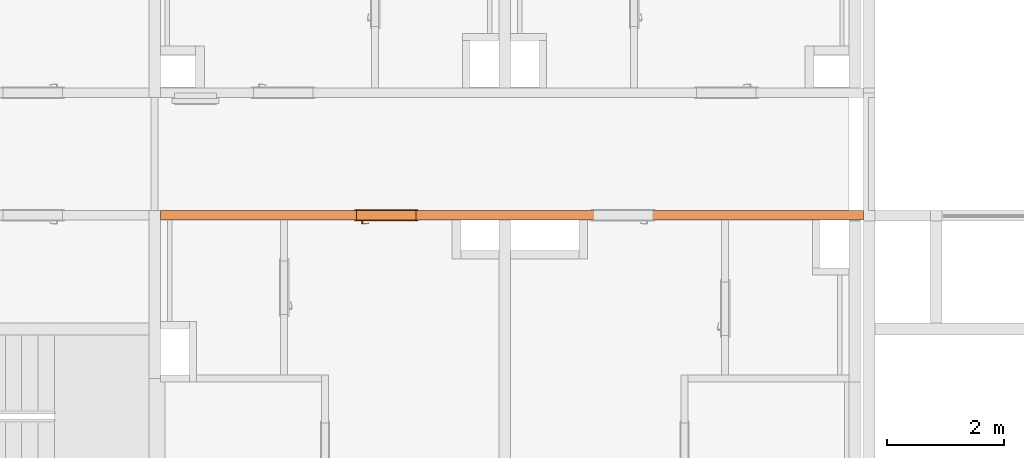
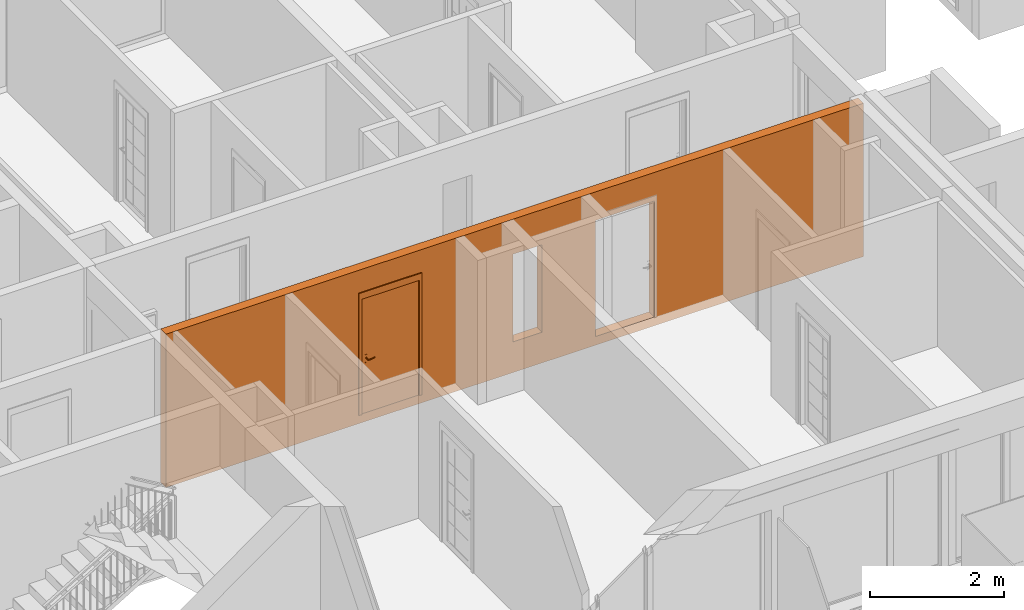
# One storey, part 22 of 66: 2 proxies, 3 openings.
"""IFC2X3 building model written with IfcOpenShell, lengths in millimetres."""

from ifc_helpers import new_model, entity, si_unit, converted_unit, derived_unit, money_unit, direction, frame, origin_with_axes, origin_2d_with_axis, place, context, subcontext, project, spatial, rectangle, extrude, open_shell, faceted_brep, surface_model, source, transform, mapped, material, type_object, element, fill, save


model = new_model("IFC2X3")

# Units and contexts
model_context = context("Model", 3, precision=0.01, world=origin_with_axes(), true_north=direction((0.34421633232, 0.938890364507)))
body_context = subcontext(model_context, "Body", "Model", "MODEL_VIEW")
ifc_project = project(units=[si_unit("LENGTHUNIT", "METRE", prefix="MILLI"), si_unit("AREAUNIT", "SQUARE_METRE"), si_unit("VOLUMEUNIT", "CUBIC_METRE"), converted_unit("PLANEANGLEUNIT", "DEGREE", entity("IfcPlaneAngleMeasure", 0.0174532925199), si_unit("PLANEANGLEUNIT", "RADIAN"), dimensions=[0, 0, 0, 0, 0, 0, 0]), si_unit("SOLIDANGLEUNIT", "STERADIAN"), money_unit("USD"), converted_unit("TIMEUNIT", "Year", entity("IfcTimeMeasure", 31556926.0), si_unit("TIMEUNIT", "SECOND"), dimensions=[0, 0, 1, 0, 0, 0, 0]), si_unit("MASSUNIT", "GRAM", prefix="KILO"), si_unit("THERMODYNAMICTEMPERATUREUNIT", "DEGREE_CELSIUS"), si_unit("LUMINOUSINTENSITYUNIT", "LUMEN"), si_unit("ENERGYUNIT", "JOULE", prefix="MEGA"), derived_unit("THERMALCONDUCTANCEUNIT", [(si_unit("POWERUNIT", "WATT"), 1), (si_unit("LENGTHUNIT", "METRE"), -1), (si_unit("THERMODYNAMICTEMPERATUREUNIT", "KELVIN"), -1)]), derived_unit("SPECIFICHEATCAPACITYUNIT", [(si_unit("ENERGYUNIT", "JOULE"), 1), (si_unit("MASSUNIT", "GRAM", prefix="KILO"), -1), (si_unit("THERMODYNAMICTEMPERATUREUNIT", "KELVIN"), -1)]), derived_unit("MASSDENSITYUNIT", [(si_unit("MASSUNIT", "GRAM", prefix="KILO"), 1), (si_unit("VOLUMEUNIT", "CUBIC_METRE"), -1)])], contexts=[model_context])

# Site, building, storey
site_placement = place(None, origin_with_axes())
site = spatial("IfcSite", under=ifc_project, at=site_placement, Name="USTRONIE MORSKIE", CompositionType="ELEMENT")
building_placement = place(site_placement, origin_with_axes())
building = spatial("IfcBuilding", under=site, at=building_placement, Name="Budynek", CompositionType="ELEMENT")
storey_placement = place(building_placement, frame((0.0, 0.0, 10000.0), z_axis=(0.0, 0.0, 1.0), x_axis=(1.0, 0.0, 0.0)))
storey = spatial("IfcBuildingStorey", under=building, at=storey_placement, Name="PIĘTRO 3", CompositionType="ELEMENT", Elevation=10000.0)

# Proxies, openings
ifc_material = material(Name="Beton konstrukcyjny B25")
building_element_proxy_type_1 = type_object("IfcBuildingElementProxyType", Name="Beton konstrukcyjny B25 160", PredefinedType="NOTDEFINED")
proxy_1_placement = place(storey_placement, frame((408567.920919, 734751.199024, -160.0), z_axis=(0.0, 0.0, 1.0), x_axis=(-1.0, 3.09952861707e-07, 0.0)))
proxy_1 = element("IfcBuildingElementProxy", 1, at=proxy_1_placement, inside=storey, type_object=building_element_proxy_type_1, material=ifc_material, Name="SW-01", context=body_context, shape_type="Brep", body=[
    faceted_brep([(12149.9999752, 80.0, 0.0), (12150.0000248, -80.0, 0.0), (100.000024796, -80.0000000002, 0.0), (99.9999752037, 80.0, 0.0), (12149.9999752, 80.0, 2800.0), (12150.0000248, -80.0, 2800.0), (100.000024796, -80.0000000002, 2800.0), (99.9999752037, 80.0, 2800.0)], [[[0, 1, 2, 3]], [[1, 0, 4, 5]], [[1, 5, 6, 2]], [[7, 3, 2, 6]], [[4, 0, 3, 7]], [[5, 4, 7, 6]]]),
])
opening_1_placement = place(proxy_1_placement, frame((8279.98054114, 0.0, 160.0), z_axis=(0.0, 0.0, 1.0), x_axis=(1.0, 0.0, 0.0)))
opening_1 = element("IfcOpeningElement", 2, at=opening_1_placement, cuts=proxy_1, Name="Dw.1", context=body_context, shape_type="SweptSolid", body=[
    extrude(rectangle(XDim=1020.0, YDim=2120.0, at=origin_2d_with_axis()), frame((0.0, -160.0, 1060.0), z_axis=(0.0, -1.0, 0.0), x_axis=(-1.0, 0.0, 0.0)), (0.0, 0.0, -1.0), 480.0),
    extrude(rectangle(XDim=1094.0, YDim=2227.0, at=origin_2d_with_axis()), frame((0.0, -80.0000000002, 1113.5), z_axis=(0.0, -1.0, 0.0), x_axis=(-1.0, 0.0, 0.0)), (0.0, 0.0, 1.0), 160.0),
    extrude(rectangle(XDim=1094.0, YDim=2227.0, at=origin_2d_with_axis()), frame((0.0, 79.9999999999, 1113.5), z_axis=(0.0, 1.0, 0.0), x_axis=(-1.0, 0.0, 0.0)), (0.0, 0.0, 1.0), 160.0),
])
opening_2_placement = place(proxy_1_placement, frame((4220.01924189, -1.13686837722e-10, 160.0), z_axis=(0.0, 0.0, 1.0), x_axis=(1.0, 0.0, 0.0)))
element("IfcOpeningElement", 3, at=opening_2_placement, cuts=proxy_1, Name="Dw.1", context=body_context, shape_type="SweptSolid", body=[
    extrude(rectangle(XDim=1020.0, YDim=2120.0, at=origin_2d_with_axis()), frame((0.0, -160.0, 1060.0), z_axis=(0.0, 1.0, 0.0), x_axis=(1.0, 0.0, 0.0)), (0.0, 0.0, 1.0), 480.0),
    extrude(rectangle(XDim=1094.0, YDim=2227.0, at=origin_2d_with_axis()), frame((0.0, -80.0, 1113.5), z_axis=(0.0, 1.0, 0.0), x_axis=(1.0, 0.0, 0.0)), (0.0, 0.0, -1.0), 160.0),
    extrude(rectangle(XDim=1094.0, YDim=2227.0, at=origin_2d_with_axis()), frame((0.0, 79.9999999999, 1113.5), z_axis=(0.0, -1.0, 0.0), x_axis=(1.0, 0.0, 0.0)), (0.0, 0.0, -1.0), 160.0),
])
opening_3_placement = place(proxy_1_placement, frame((5900.000031, 0.0, 560.0), z_axis=(0.0, 0.0, 1.0), x_axis=(1.0, 0.0, 0.0)))
element("IfcOpeningElement", 4, at=opening_3_placement, cuts=proxy_1, Name="R.01", context=body_context, shape_type="SweptSolid", body=[
    extrude(rectangle(XDim=500.0, YDim=1600.0, at=origin_2d_with_axis()), frame((0.0, -80.0, 800.0), z_axis=(0.0, 1.0, 0.0), x_axis=(1.0, 0.0, 0.0)), (0.0, 0.0, -1.0), 160.0),
    extrude(rectangle(XDim=500.0, YDim=1600.0, at=origin_2d_with_axis()), frame((0.0, -80.0, 800.0), z_axis=(0.0, -1.0, 0.0), x_axis=(1.0, 0.0, 0.0)), (0.0, 0.0, -1.0), 160.0),
])
building_element_proxy_type_2 = type_object("IfcBuildingElementProxyType", Name="Drzwi 23", PredefinedType="NOTDEFINED")
shared_shape = source(origin_with_axes(), body_context, "Body", "SurfaceModel", [
    faceted_brep([(510.0, -115.0, 0.0), (510.0, -160.0, 0.0), (485.0, -160.0, 0.0), (485.0, -115.0, 0.0), (510.0, -115.0, 2120.0), (510.0, -160.0, 2120.0), (485.0, -160.0, 2095.0), (485.0, -115.0, 2095.0)], [[[0, 1, 2, 3]], [[4, 5, 1, 0]], [[1, 5, 6, 2]], [[3, 2, 6, 7]], [[0, 3, 7, 4]], [[7, 6, 5, 4]]]),
    faceted_brep([(-510.0, -115.0, 2120.0), (-510.0, -160.0, 2120.0), (-485.0, -160.0, 2095.0), (-485.0, -115.0, 2095.0), (-510.0, -115.0, 0.0), (-510.0, -160.0, 0.0), (-485.0, -160.0, 0.0), (-485.0, -115.0, 0.0)], [[[0, 1, 2, 3]], [[4, 5, 1, 0]], [[1, 5, 6, 2]], [[3, 2, 6, 7]], [[0, 3, 7, 4]], [[7, 6, 5, 4]]]),
    faceted_brep([(485.0, -115.0, 2095.0), (485.0, -160.0, 2095.0), (-485.0, -160.0, 2095.0), (-485.0, -115.0, 2095.0), (510.0, -115.0, 2120.0), (510.0, -160.0, 2120.0), (-510.0, -160.0, 2120.0), (-510.0, -115.0, 2120.0)], [[[0, 1, 2, 3]], [[4, 5, 1, 0]], [[1, 5, 6, 2]], [[3, 2, 6, 7]], [[0, 3, 7, 4]], [[7, 6, 5, 4]]]),
    faceted_brep([(547.0, -179.0, 0.0), (497.0, -179.0, 0.0), (497.0, -160.0, 0.0), (547.0, -160.0, 0.0), (547.0, -179.0, 2227.0), (497.0, -179.0, 2107.0), (497.0, -160.0, 2107.0), (547.0, -160.0, 2227.0)], [[[0, 1, 2, 3]], [[0, 4, 5, 1]], [[1, 5, 6, 2]], [[3, 2, 6, 7]], [[4, 0, 3, 7]], [[5, 4, 7, 6]]]),
    faceted_brep([(-547.0, -179.0, 2227.0), (-497.0, -179.0, 2107.0), (-497.0, -160.0, 2107.0), (-547.0, -160.0, 2227.0), (-547.0, -179.0, 0.0), (-497.0, -179.0, 0.0), (-497.0, -160.0, 0.0), (-547.0, -160.0, 0.0)], [[[0, 1, 2, 3]], [[0, 4, 5, 1]], [[1, 5, 6, 2]], [[3, 2, 6, 7]], [[4, 0, 3, 7]], [[5, 4, 7, 6]]]),
    faceted_brep([(547.0, -179.0, 2227.0), (497.0, -179.0, 2107.0), (497.0, -160.0, 2107.0), (547.0, -160.0, 2227.0), (-547.0, -179.0, 2227.0), (-497.0, -179.0, 2107.0), (-497.0, -160.0, 2107.0), (-547.0, -160.0, 2227.0)], [[[0, 1, 2, 3]], [[0, 4, 5, 1]], [[1, 5, 6, 2]], [[3, 2, 6, 7]], [[4, 0, 3, 7]], [[5, 4, 7, 6]]]),
    faceted_brep([(547.0, 19.0, 0.0), (547.0, 0.0, 0.0), (497.0, 0.0, 0.0), (497.0, 19.0, 0.0), (547.0, 19.0, 2227.0), (547.0, 0.0, 2227.0), (497.0, 0.0, 2107.0), (497.0, 19.0, 2107.0)], [[[0, 1, 2, 3]], [[4, 5, 1, 0]], [[1, 5, 6, 2]], [[3, 2, 6, 7]], [[0, 3, 7, 4]], [[7, 6, 5, 4]]]),
    faceted_brep([(-547.0, 19.0, 2227.0), (-547.0, 0.0, 2227.0), (-497.0, 0.0, 2107.0), (-497.0, 19.0, 2107.0), (-547.0, 19.0, 0.0), (-547.0, 0.0, 0.0), (-497.0, 0.0, 0.0), (-497.0, 19.0, 0.0)], [[[0, 1, 2, 3]], [[4, 5, 1, 0]], [[1, 5, 6, 2]], [[3, 2, 6, 7]], [[0, 3, 7, 4]], [[7, 6, 5, 4]]]),
    faceted_brep([(547.0, 19.0, 2227.0), (547.0, 0.0, 2227.0), (497.0, 0.0, 2107.0), (497.0, 19.0, 2107.0), (-547.0, 19.0, 2227.0), (-547.0, 0.0, 2227.0), (-497.0, 0.0, 2107.0), (-497.0, 19.0, 2107.0)], [[[0, 1, 2, 3]], [[4, 5, 1, 0]], [[1, 5, 6, 2]], [[3, 2, 6, 7]], [[0, 3, 7, 4]], [[7, 6, 5, 4]]]),
    faceted_brep([(450.0, -40.0, 0.0), (450.0, -115.0, 0.0), (450.0, -115.0, 2050.0), (450.0, -40.0, 2050.0), (462.0, -40.0, 0.0), (462.0, 0.0, 0.0), (510.0, 0.0, 0.0), (510.0, -115.0, 0.0), (510.0, -115.0, 2050.0), (462.0, -40.0, 2050.0), (510.0, 0.0, 2050.0), (462.0, 0.0, 2050.0)], [[[0, 1, 2, 3]], [[4, 5, 6, 7, 1, 0]], [[1, 7, 8, 2]], [[9, 3, 2, 8, 10, 11]], [[9, 4, 0, 3]], [[11, 5, 4, 9]], [[11, 10, 6, 5]], [[6, 10, 8, 7]]]),
    faceted_brep([(-462.0, -40.0, 2050.0), (-462.0, 0.0, 2050.0), (-510.0, 0.0, 2050.0), (-510.0, -115.0, 2050.0), (-450.0, -115.0, 2050.0), (-450.0, -40.0, 2050.0), (-462.0, -40.0, 0.0), (-462.0, 0.0, 0.0), (-510.0, 0.0, 0.0), (-510.0, -115.0, 0.0), (-450.0, -115.0, 0.0), (-450.0, -40.0, 0.0)], [[[0, 1, 2, 3, 4, 5]], [[0, 6, 7, 1]], [[7, 8, 2, 1]], [[2, 8, 9, 3]], [[3, 9, 10, 4]], [[5, 4, 10, 11]], [[5, 11, 6, 0]], [[6, 11, 10, 9, 8, 7]]]),
    faceted_brep([(462.0, 0.0, 2062.0), (-462.0, 0.0, 2062.0), (-462.0, 0.0, 2050.0), (-510.0, 0.0, 2050.0), (-510.0, 0.0, 2120.0), (510.0, 0.0, 2120.0), (510.0, 0.0, 2050.0), (462.0, 0.0, 2050.0), (462.0, -40.0, 2062.0), (-462.0, -40.0, 2062.0), (-462.0, -40.0, 2050.0), (-450.0, -40.0, 2050.0), (-450.0, -115.0, 2050.0), (-510.0, -115.0, 2050.0), (-510.0, -115.0, 2120.0), (510.0, -115.0, 2120.0), (510.0, -115.0, 2050.0), (462.0, -40.0, 2050.0), (450.0, -115.0, 2050.0), (450.0, -40.0, 2050.0)], [[[0, 1, 2, 3, 4, 5, 6, 7]], [[0, 8, 9, 1]], [[1, 9, 10, 2]], [[10, 11, 12, 13, 3, 2]], [[4, 3, 13, 14]], [[5, 4, 14, 15]], [[6, 5, 15, 16]], [[17, 7, 6, 16, 18, 19]], [[7, 17, 8, 0]], [[10, 9, 8, 17, 19, 11]], [[19, 18, 12, 11]], [[12, 18, 16, 15, 14, 13]]]),
    faceted_brep([(440.5, -40.0, 1060.0), (383.5, -40.0, 1060.0), (383.5, -43.0, 1060.0), (440.5, -43.0, 1060.0), (440.5, -40.0, 870.0), (383.5, -40.0, 870.0), (383.5, -43.0, 870.0), (440.5, -43.0, 870.0)], [[[0, 1, 2, 3]], [[0, 4, 5, 1]], [[1, 5, 6, 2]], [[3, 2, 6, 7]], [[4, 0, 3, 7]], [[5, 4, 7, 6]]]),
    faceted_brep([(412.0, -104.0, 990.0), (417.0, -104.0, 991.339745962), (417.0, -111.0, 991.339745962), (412.0, -111.0, 990.0), (387.0, -104.0, 990.0), (387.0, -104.0, 1010.0), (412.0, -104.0, 1010.0), (417.0, -104.0, 1008.66025404), (420.660254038, -104.0, 1005.0), (422.0, -104.0, 1000.0), (420.660254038, -104.0, 995.0), (420.660254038, -111.0, 995.0), (422.0, -111.0, 1000.0), (420.660254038, -111.0, 1005.0), (417.0, -111.0, 1008.66025404), (412.0, -111.0, 1010.0), (387.0, -111.0, 1010.0), (387.0, -111.0, 990.0)], [[[0, 1, 2, 3]], [[0, 4, 5, 6, 7, 8, 9, 10, 1]], [[1, 10, 11, 2]], [[3, 2, 11, 12, 13, 14, 15, 16, 17]], [[4, 0, 3, 17]], [[5, 4, 17, 16]], [[6, 5, 16, 15]], [[7, 6, 15, 14]], [[8, 7, 14, 13]], [[9, 8, 13, 12]], [[10, 9, 12, 11]]]),
    surface_model("IfcShellBasedSurfaceModel", [(387.0, -104.0, 1010.0), (373.901717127, -104.0, 1009.60730092), (373.596090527, -111.0, 1009.60730092), (387.0, -104.0, 990.0), (373.901717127, -104.0, 990.392699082), (346.890283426, -108.663544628, 1008.82190275), (387.0, -111.0, 1010.0), (387.0, -111.0, 990.0), (347.804837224, -101.716818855, 991.178097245), (347.804837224, -101.716818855, 1008.82190275), (346.890283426, -108.663544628, 991.178097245), (373.596090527, -111.0, 990.392699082), (322.006256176, -97.1678329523, 991.963495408), (322.006256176, -97.1678329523, 1008.03650459), (320.489735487, -104.008415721, 1008.03650459), (320.489735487, -104.008415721, 991.963495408), (296.702316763, -90.3876628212, 992.748893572), (296.702316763, -90.3876628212, 1007.25110643), (294.59537082, -97.0700416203, 1007.25110643), (294.59537082, -97.0700416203, 992.748893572), (288.829442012, -87.5221707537, 993.0), (288.829442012, -87.5221707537, 1007.0), (286.538795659, -94.1376880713, 1007.0), (286.538795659, -94.1376880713, 993.0)], [open_shell([[[0, 1, 2]], [[0, 3, 4, 1]], [[1, 5, 2]], [[0, 2, 6]], [[4, 3, 7]], [[1, 4, 8, 9]], [[1, 9, 5]], [[2, 5, 10, 11]], [[6, 2, 11, 7]], [[4, 7, 11]], [[8, 4, 11]], [[9, 8, 12, 13]], [[9, 14, 5]], [[5, 14, 15, 10]], [[8, 11, 10]], [[12, 8, 10]], [[13, 12, 16, 17]], [[9, 13, 14]], [[14, 18, 19, 15]], [[12, 10, 15]], [[16, 12, 15]], [[17, 16, 20, 21]], [[13, 17, 18]], [[13, 18, 14]], [[18, 22, 23, 19]], [[16, 15, 19]], [[20, 16, 19]], [[21, 20, 23, 22]], [[17, 21, 22]], [[17, 22, 18]], [[20, 19, 23]]])]),
    faceted_brep([(401.607695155, -53.0, 994.0), (400.0, -53.0, 1000.0), (399.0, -43.0, 1000.0), (400.741669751, -43.0, 993.5), (406.0, -53.0, 989.607695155), (412.0, -53.0, 988.0), (418.0, -53.0, 989.607695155), (422.392304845, -53.0, 994.0), (424.0, -53.0, 1000.0), (422.392304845, -53.0, 1006.0), (418.0, -53.0, 1010.39230485), (412.0, -53.0, 1012.0), (406.0, -53.0, 1010.39230485), (401.607695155, -53.0, 1006.0), (400.741669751, -43.0, 1006.5), (405.5, -43.0, 1011.25833025), (412.0, -43.0, 1013.0), (418.5, -43.0, 1011.25833025), (423.258330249, -43.0, 1006.5), (425.0, -43.0, 1000.0), (423.258330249, -43.0, 993.5), (418.5, -43.0, 988.741669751), (412.0, -43.0, 987.0), (405.5, -43.0, 988.741669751)], [[[0, 1, 2, 3]], [[1, 0, 4, 5, 6, 7, 8, 9, 10, 11, 12, 13]], [[1, 13, 14, 2]], [[2, 14, 15, 16, 17, 18, 19, 20, 21, 22, 23, 3]], [[4, 0, 3, 23]], [[5, 4, 23, 22]], [[6, 5, 22, 21]], [[7, 6, 21, 20]], [[8, 7, 20, 19]], [[9, 8, 19, 18]], [[10, 9, 18, 17]], [[11, 10, 17, 16]], [[12, 11, 16, 15]], [[13, 12, 15, 14]]]),
    faceted_brep([(394.679491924, -47.0, 895.0), (392.0, -47.0, 905.0), (390.0, -43.0, 905.0), (392.947441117, -43.0, 894.0), (402.0, -47.0, 887.679491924), (412.0, -47.0, 885.0), (422.0, -47.0, 887.679491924), (429.320508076, -47.0, 895.0), (432.0, -47.0, 905.0), (429.320508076, -47.0, 915.0), (422.0, -47.0, 922.320508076), (412.0, -47.0, 925.0), (402.0, -47.0, 922.320508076), (394.679491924, -47.0, 915.0), (392.947441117, -43.0, 916.0), (401.0, -43.0, 924.052558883), (412.0, -43.0, 927.0), (423.0, -43.0, 924.052558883), (431.052558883, -43.0, 916.0), (434.0, -43.0, 905.0), (431.052558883, -43.0, 894.0), (423.0, -43.0, 885.947441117), (412.0, -43.0, 883.0), (401.0, -43.0, 885.947441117)], [[[0, 1, 2, 3]], [[1, 0, 4, 5, 6, 7, 8, 9, 10, 11, 12, 13]], [[1, 13, 14, 2]], [[2, 14, 15, 16, 17, 18, 19, 20, 21, 22, 23, 3]], [[4, 0, 3, 23]], [[5, 4, 23, 22]], [[6, 5, 22, 21]], [[7, 6, 21, 20]], [[8, 7, 20, 19]], [[9, 8, 19, 18]], [[10, 9, 18, 17]], [[11, 10, 17, 16]], [[12, 11, 16, 15]], [[13, 12, 15, 14]]]),
    faceted_brep([(407.050252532, -49.0, 909.050252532), (405.0, -49.0, 914.0), (404.0, -47.0, 914.0), (406.343145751, -47.0, 908.343145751), (412.0, -49.0, 907.0), (416.949747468, -49.0, 909.050252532), (419.0, -49.0, 914.0), (416.949747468, -49.0, 918.949747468), (412.0, -49.0, 921.0), (407.050252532, -49.0, 918.949747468), (406.343145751, -47.0, 919.656854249), (412.0, -47.0, 922.0), (417.656854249, -47.0, 919.656854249), (420.0, -47.0, 914.0), (417.656854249, -47.0, 908.343145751), (412.0, -47.0, 906.0)], [[[0, 1, 2, 3]], [[1, 0, 4, 5, 6, 7, 8, 9]], [[1, 9, 10, 2]], [[2, 10, 11, 12, 13, 14, 15, 3]], [[4, 0, 3, 15]], [[5, 4, 15, 14]], [[6, 5, 14, 13]], [[7, 6, 13, 12]], [[8, 7, 12, 11]], [[9, 8, 11, 10]]]),
    faceted_brep([(412.0, -53.0, 1010.0), (407.0, -53.0, 1008.66025404), (407.0, -104.0, 1008.66025404), (412.0, -104.0, 1010.0), (417.0, -53.0, 1008.66025404), (420.660254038, -53.0, 1005.0), (422.0, -53.0, 1000.0), (420.660254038, -53.0, 995.0), (417.0, -53.0, 991.339745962), (412.0, -53.0, 990.0), (407.0, -53.0, 991.339745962), (403.339745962, -53.0, 995.0), (402.0, -53.0, 1000.0), (403.339745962, -53.0, 1005.0), (403.339745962, -104.0, 1005.0), (402.0, -104.0, 1000.0), (403.339745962, -104.0, 995.0), (407.0, -104.0, 991.339745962), (412.0, -104.0, 990.0), (417.0, -104.0, 991.339745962), (420.660254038, -104.0, 995.0), (422.0, -104.0, 1000.0), (420.660254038, -104.0, 1005.0), (417.0, -104.0, 1008.66025404)], [[[0, 1, 2, 3]], [[0, 4, 5, 6, 7, 8, 9, 10, 11, 12, 13, 1]], [[1, 13, 14, 2]], [[3, 2, 14, 15, 16, 17, 18, 19, 20, 21, 22, 23]], [[4, 0, 3, 23]], [[5, 4, 23, 22]], [[6, 5, 22, 21]], [[7, 6, 21, 20]], [[8, 7, 20, 19]], [[9, 8, 19, 18]], [[10, 9, 18, 17]], [[11, 10, 17, 16]], [[12, 11, 16, 15]], [[13, 12, 15, 14]]]),
    faceted_brep([(440.5, 0.0, 1060.0), (440.5, 3.0, 1060.0), (383.5, 3.0, 1060.0), (383.5, 0.0, 1060.0), (440.5, 0.0, 870.0), (440.5, 3.0, 870.0), (383.5, 3.0, 870.0), (383.5, 0.0, 870.0)], [[[0, 1, 2, 3]], [[4, 5, 1, 0]], [[1, 5, 6, 2]], [[3, 2, 6, 7]], [[0, 3, 7, 4]], [[7, 6, 5, 4]]]),
    faceted_brep([(412.0, 64.0, 990.0), (412.0, 71.0, 990.0), (417.0, 71.0, 991.339745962), (417.0, 64.0, 991.339745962), (387.0, 64.0, 990.0), (387.0, 71.0, 990.0), (387.0, 71.0, 1010.0), (412.0, 71.0, 1010.0), (417.0, 71.0, 1008.66025404), (420.660254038, 71.0, 1005.0), (422.0, 71.0, 1000.0), (420.660254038, 71.0, 995.0), (420.660254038, 64.0, 995.0), (422.0, 64.0, 1000.0), (420.660254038, 64.0, 1005.0), (417.0, 64.0, 1008.66025404), (412.0, 64.0, 1010.0), (387.0, 64.0, 1010.0)], [[[0, 1, 2, 3]], [[4, 5, 1, 0]], [[1, 5, 6, 7, 8, 9, 10, 11, 2]], [[3, 2, 11, 12]], [[0, 3, 12, 13, 14, 15, 16, 17, 4]], [[17, 6, 5, 4]], [[16, 7, 6, 17]], [[15, 8, 7, 16]], [[14, 9, 8, 15]], [[13, 10, 9, 14]], [[12, 11, 10, 13]]]),
    surface_model("IfcShellBasedSurfaceModel", [(387.0, 64.0, 1010.0), (373.596090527, 71.0, 1009.60730092), (373.901717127, 64.0, 1009.60730092), (387.0, 71.0, 1010.0), (346.890283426, 68.6635446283, 1008.82190275), (373.901717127, 64.0, 990.392699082), (387.0, 64.0, 990.0), (387.0, 71.0, 990.0), (373.596090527, 71.0, 990.392699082), (346.890283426, 68.6635446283, 991.178097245), (347.804837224, 61.716818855, 1008.82190275), (347.804837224, 61.716818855, 991.178097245), (320.489735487, 64.0084157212, 991.963495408), (320.489735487, 64.0084157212, 1008.03650459), (322.006256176, 57.1678329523, 1008.03650459), (322.006256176, 57.1678329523, 991.963495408), (294.59537082, 57.0700416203, 992.748893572), (294.59537082, 57.0700416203, 1007.25110643), (296.702316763, 50.3876628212, 1007.25110643), (296.702316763, 50.3876628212, 992.748893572), (286.538795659, 54.1376880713, 993.0), (286.538795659, 54.1376880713, 1007.0), (288.829442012, 47.5221707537, 1007.0), (288.829442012, 47.5221707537, 993.0)], [open_shell([[[0, 1, 2]], [[0, 3, 1]], [[2, 1, 4]], [[0, 2, 5, 6]], [[3, 7, 8, 1]], [[1, 8, 9, 4]], [[2, 4, 10]], [[2, 10, 11, 5]], [[5, 7, 6]], [[5, 8, 7]], [[11, 9, 8]], [[4, 9, 12, 13]], [[10, 4, 13]], [[10, 14, 15, 11]], [[11, 8, 5]], [[15, 9, 11]], [[15, 12, 9]], [[13, 12, 16, 17]], [[10, 13, 14]], [[14, 18, 19, 15]], [[19, 12, 15]], [[19, 16, 12]], [[17, 16, 20, 21]], [[14, 13, 17]], [[14, 17, 18]], [[18, 22, 23, 19]], [[23, 16, 19]], [[23, 20, 16]], [[22, 21, 20, 23]], [[18, 17, 21]], [[18, 21, 22]]])]),
    faceted_brep([(401.607695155, 13.0, 994.0), (400.741669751, 3.0, 993.5), (399.0, 3.0, 1000.0), (400.0, 13.0, 1000.0), (406.0, 13.0, 989.607695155), (405.5, 3.0, 988.741669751), (412.0, 3.0, 987.0), (418.5, 3.0, 988.741669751), (423.258330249, 3.0, 993.5), (425.0, 3.0, 1000.0), (423.258330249, 3.0, 1006.5), (418.5, 3.0, 1011.25833025), (412.0, 3.0, 1013.0), (405.5, 3.0, 1011.25833025), (400.741669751, 3.0, 1006.5), (401.607695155, 13.0, 1006.0), (406.0, 13.0, 1010.39230485), (412.0, 13.0, 1012.0), (418.0, 13.0, 1010.39230485), (422.392304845, 13.0, 1006.0), (424.0, 13.0, 1000.0), (422.392304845, 13.0, 994.0), (418.0, 13.0, 989.607695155), (412.0, 13.0, 988.0)], [[[0, 1, 2, 3]], [[4, 5, 1, 0]], [[2, 1, 5, 6, 7, 8, 9, 10, 11, 12, 13, 14]], [[3, 2, 14, 15]], [[3, 15, 16, 17, 18, 19, 20, 21, 22, 23, 4, 0]], [[23, 6, 5, 4]], [[22, 7, 6, 23]], [[21, 8, 7, 22]], [[20, 9, 8, 21]], [[19, 10, 9, 20]], [[18, 11, 10, 19]], [[17, 12, 11, 18]], [[16, 13, 12, 17]], [[15, 14, 13, 16]]]),
    faceted_brep([(394.679491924, 7.0, 895.0), (392.947441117, 3.0, 894.0), (390.0, 3.0, 905.0), (392.0, 7.0, 905.0), (402.0, 7.0, 887.679491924), (401.0, 3.0, 885.947441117), (412.0, 3.0, 883.0), (423.0, 3.0, 885.947441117), (431.052558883, 3.0, 894.0), (434.0, 3.0, 905.0), (431.052558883, 3.0, 916.0), (423.0, 3.0, 924.052558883), (412.0, 3.0, 927.0), (401.0, 3.0, 924.052558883), (392.947441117, 3.0, 916.0), (394.679491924, 7.0, 915.0), (402.0, 7.0, 922.320508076), (412.0, 7.0, 925.0), (422.0, 7.0, 922.320508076), (429.320508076, 7.0, 915.0), (432.0, 7.0, 905.0), (429.320508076, 7.0, 895.0), (422.0, 7.0, 887.679491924), (412.0, 7.0, 885.0)], [[[0, 1, 2, 3]], [[4, 5, 1, 0]], [[2, 1, 5, 6, 7, 8, 9, 10, 11, 12, 13, 14]], [[3, 2, 14, 15]], [[3, 15, 16, 17, 18, 19, 20, 21, 22, 23, 4, 0]], [[23, 6, 5, 4]], [[22, 7, 6, 23]], [[21, 8, 7, 22]], [[20, 9, 8, 21]], [[19, 10, 9, 20]], [[18, 11, 10, 19]], [[17, 12, 11, 18]], [[16, 13, 12, 17]], [[15, 14, 13, 16]]]),
    faceted_brep([(407.050252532, 9.0, 909.050252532), (406.343145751, 7.0, 908.343145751), (404.0, 7.0, 914.0), (405.0, 9.0, 914.0), (412.0, 9.0, 907.0), (412.0, 7.0, 906.0), (417.656854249, 7.0, 908.343145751), (420.0, 7.0, 914.0), (417.656854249, 7.0, 919.656854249), (412.0, 7.0, 922.0), (406.343145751, 7.0, 919.656854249), (407.050252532, 9.0, 918.949747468), (412.0, 9.0, 921.0), (416.949747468, 9.0, 918.949747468), (419.0, 9.0, 914.0), (416.949747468, 9.0, 909.050252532)], [[[0, 1, 2, 3]], [[4, 5, 1, 0]], [[2, 1, 5, 6, 7, 8, 9, 10]], [[3, 2, 10, 11]], [[3, 11, 12, 13, 14, 15, 4, 0]], [[15, 6, 5, 4]], [[14, 7, 6, 15]], [[13, 8, 7, 14]], [[12, 9, 8, 13]], [[11, 10, 9, 12]]]),
    faceted_brep([(412.0, 13.0, 1010.0), (412.0, 64.0, 1010.0), (407.0, 64.0, 1008.66025404), (407.0, 13.0, 1008.66025404), (417.0, 13.0, 1008.66025404), (417.0, 64.0, 1008.66025404), (420.660254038, 64.0, 1005.0), (422.0, 64.0, 1000.0), (420.660254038, 64.0, 995.0), (417.0, 64.0, 991.339745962), (412.0, 64.0, 990.0), (407.0, 64.0, 991.339745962), (403.339745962, 64.0, 995.0), (402.0, 64.0, 1000.0), (403.339745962, 64.0, 1005.0), (403.339745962, 13.0, 1005.0), (402.0, 13.0, 1000.0), (403.339745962, 13.0, 995.0), (407.0, 13.0, 991.339745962), (412.0, 13.0, 990.0), (417.0, 13.0, 991.339745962), (420.660254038, 13.0, 995.0), (422.0, 13.0, 1000.0), (420.660254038, 13.0, 1005.0)], [[[0, 1, 2, 3]], [[4, 5, 1, 0]], [[1, 5, 6, 7, 8, 9, 10, 11, 12, 13, 14, 2]], [[3, 2, 14, 15]], [[0, 3, 15, 16, 17, 18, 19, 20, 21, 22, 23, 4]], [[23, 6, 5, 4]], [[22, 7, 6, 23]], [[21, 8, 7, 22]], [[20, 9, 8, 21]], [[19, 10, 9, 20]], [[18, 11, 10, 19]], [[17, 12, 11, 18]], [[16, 13, 12, 17]], [[15, 14, 13, 16]]]),
    faceted_brep([(-462.0, 0.0, 0.0), (462.0, 0.0, 0.0), (462.0, -40.0, 0.0), (-462.0, -40.0, 0.0), (-462.0, 0.0, 2062.0), (462.0, 0.0, 2062.0), (462.0, -40.0, 2062.0), (-462.0, -40.0, 2062.0)], [[[0, 1, 2, 3]], [[0, 4, 5, 1]], [[1, 5, 6, 2]], [[3, 2, 6, 7]], [[4, 0, 3, 7]], [[5, 4, 7, 6]]]),
])
proxy_2_placement = place(opening_1_placement, frame((-450.0, 1.13686837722e-10, 0.0), z_axis=(0.0, 0.0, 1.0), x_axis=(1.0, 0.0, 0.0)))
proxy_2 = element("IfcBuildingElementProxy", 5, at=proxy_2_placement, inside=storey, type_object=building_element_proxy_type_2, Name="Dw.1", context=body_context, shape_type="MappedRepresentation", body=[
    mapped(shared_shape, transform((450.0, 79.9999999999, 0.0))),
])
fill(opening_1, proxy_2)

save(model, "model.ifc")
